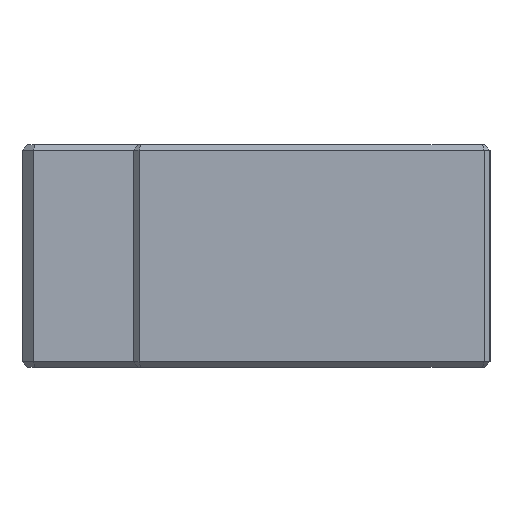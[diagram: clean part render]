
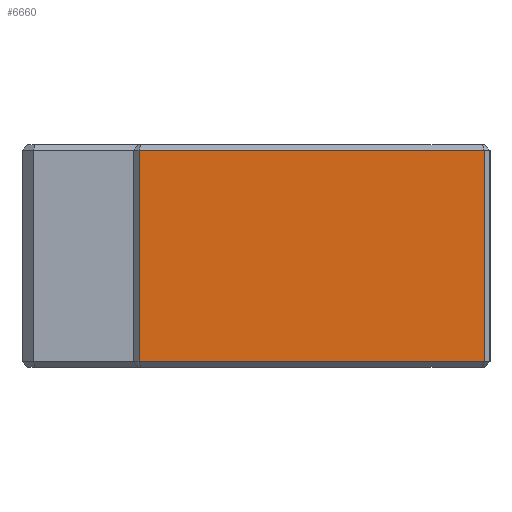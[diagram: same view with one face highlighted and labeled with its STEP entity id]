
A CAD part, left-side view. The second image highlights one B-rep face of the part: STEP entity #6660.
In plain terms, the highlighted planar face has unit normal (-1, 0, 0).
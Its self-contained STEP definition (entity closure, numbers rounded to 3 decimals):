
#163 = AXIS2_PLACEMENT_3D ( 'NONE', #2132, #7163, #3401 ) ;
#896 = LINE ( 'NONE', #4058, #5693 ) ;
#977 = VERTEX_POINT ( 'NONE', #7033 ) ;
#1086 = LINE ( 'NONE', #3444, #7742 ) ;
#1613 = CARTESIAN_POINT ( 'NONE',  ( -125.98, 47.396, 10. ) ) ;
#1632 = ORIENTED_EDGE ( 'NONE', *, *, #6011, .T. ) ;
#1642 = ORIENTED_EDGE ( 'NONE', *, *, #6064, .T. ) ;
#1947 = FACE_OUTER_BOUND ( 'NONE', #7628, .T. ) ;
#2132 = CARTESIAN_POINT ( 'NONE',  ( -125.98, 15.896, 10. ) ) ;
#2925 = CARTESIAN_POINT ( 'NONE',  ( -125.98, 47.396, -9.5 ) ) ;
#3395 = CARTESIAN_POINT ( 'NONE',  ( -125.98, 16.396, -9.5 ) ) ;
#3401 = DIRECTION ( 'NONE',  ( 0., 0., -1. ) ) ;
#3444 = CARTESIAN_POINT ( 'NONE',  ( -125.98, 15.896, 9.5 ) ) ;
#3784 = VERTEX_POINT ( 'NONE', #6184 ) ;
#4040 = DIRECTION ( 'NONE',  ( 0., -1., 0. ) ) ;
#4058 = CARTESIAN_POINT ( 'NONE',  ( -125.98, 16.396, 10. ) ) ;
#4549 = VERTEX_POINT ( 'NONE', #6584 ) ;
#5282 = VECTOR ( 'NONE', #7257, 1000. ) ;
#5344 = ORIENTED_EDGE ( 'NONE', *, *, #6032, .T. ) ;
#5491 = LINE ( 'NONE', #1613, #5282 ) ;
#5693 = VECTOR ( 'NONE', #7817, 1000. ) ;
#5889 = VECTOR ( 'NONE', #4040, 1000. ) ;
#5986 = EDGE_CURVE ( 'NONE', #6790, #977, #7562, .T. ) ;
#6011 = EDGE_CURVE ( 'NONE', #3784, #4549, #1086, .T. ) ;
#6032 = EDGE_CURVE ( 'NONE', #977, #3784, #896, .T. ) ;
#6049 = ORIENTED_EDGE ( 'NONE', *, *, #5986, .T. ) ;
#6064 = EDGE_CURVE ( 'NONE', #4549, #6790, #5491, .T. ) ;
#6184 = CARTESIAN_POINT ( 'NONE',  ( -125.98, 16.396, 9.5 ) ) ;
#6537 = PLANE ( 'NONE',  #163 ) ;
#6584 = CARTESIAN_POINT ( 'NONE',  ( -125.98, 47.396, 9.5 ) ) ;
#6660 = ADVANCED_FACE ( 'NONE', ( #1947 ), #6537, .F. ) ;
#6790 = VERTEX_POINT ( 'NONE', #2925 ) ;
#7033 = CARTESIAN_POINT ( 'NONE',  ( -125.98, 16.396, -9.5 ) ) ;
#7163 = DIRECTION ( 'NONE',  ( 1., 0., 0. ) ) ;
#7213 = DIRECTION ( 'NONE',  ( 0., 1., 0. ) ) ;
#7257 = DIRECTION ( 'NONE',  ( 0., 0., -1. ) ) ;
#7562 = LINE ( 'NONE', #3395, #5889 ) ;
#7628 = EDGE_LOOP ( 'NONE', ( #1642, #6049, #5344, #1632 ) ) ;
#7742 = VECTOR ( 'NONE', #7213, 1000. ) ;
#7817 = DIRECTION ( 'NONE',  ( 0., 0., 1. ) ) ;
